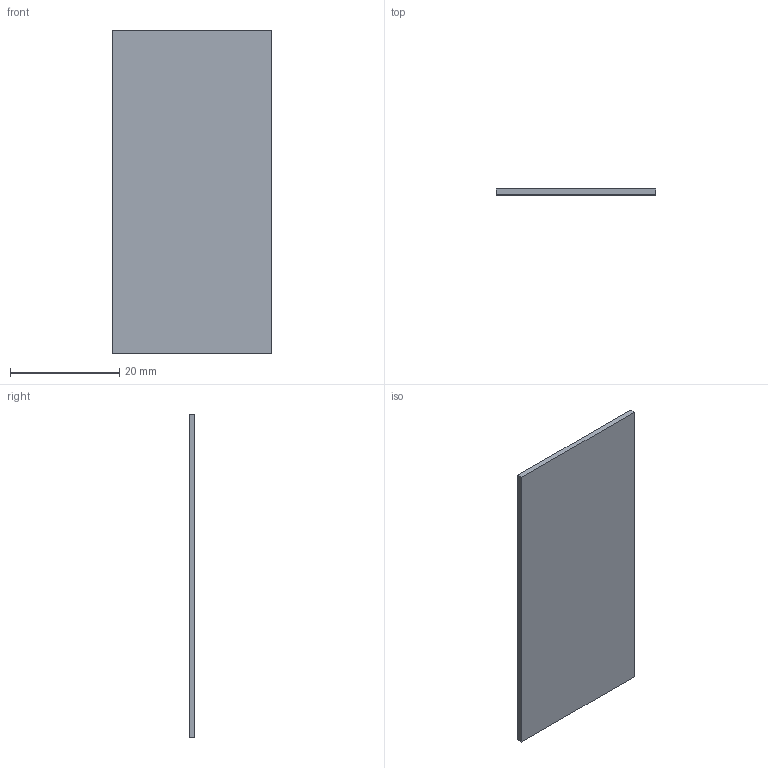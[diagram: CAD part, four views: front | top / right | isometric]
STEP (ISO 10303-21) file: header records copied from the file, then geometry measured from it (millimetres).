
FILE_DESCRIPTION(('Open CASCADE Model'),'2;1');
FILE_NAME('Open CASCADE Shape Model','2026-10-19T03:30:13',('Author'),( 'Open CASCADE'),'Open CASCADE STEP processor 7.9','Open CASCADE 7.9' ,'Unknown');
FILE_SCHEMA(('AUTOMOTIVE_DESIGN { 1 0 10303 214 1 1 1 1 }'));
Length unit declared in the file: millimetre
Products named in the file (1): Open CASCADE STEP translator 7.9 3
Bounding box: 29.2 x 1 x 59.2 mm (x, y, z)
Volume: 1728.6 mm3; surface area: 3634.1 mm2
Topology: 1 solids, 1 shells, 6 faces, 12 edges, 8 vertices
Faces by surface type: plane 6
Entity records: 322 total; most frequent: CARTESIAN_POINT 51, DIRECTION 50, LINE 36, VECTOR 36, ORIENTED_EDGE 24, PCURVE 24, DEFINITIONAL_REPRESENTATION 24, EDGE_CURVE 12
